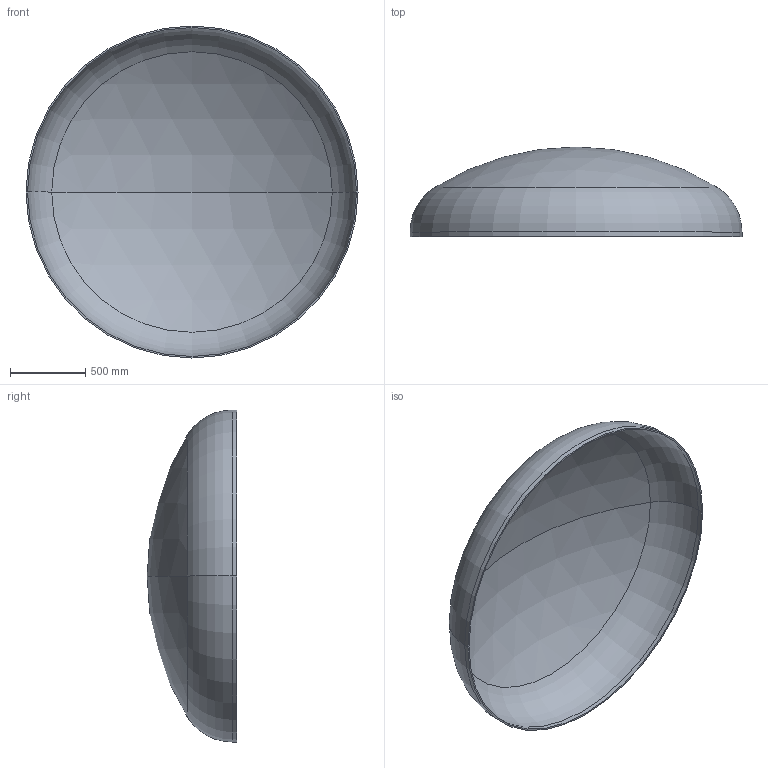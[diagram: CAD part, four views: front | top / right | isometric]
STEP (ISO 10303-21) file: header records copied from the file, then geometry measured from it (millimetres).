
FILE_DESCRIPTION (( 'STEP AP203' ), '1' );
FILE_NAME ('DIN 28013 Korbbogenform_-_Boden DIN 28013 - 2200 x 30 - I - s=10.step', '2016-07-01T14:18:24', ( '' ), ( '' ), 'SwSTEP 2.0', 'SolidWorks 2013', '' );
FILE_SCHEMA (( 'CONFIG_CONTROL_DESIGN' ));
Length unit declared in the file: millimetre
Products named in the file (1): DIN 28013 Korbbogenform_-_Boden DIN 28013 - 2200 x 30 - I - s=10
Bounding box: 2200 x 594.22 x 2200 mm (x, y, z)
Volume: 54434739 mm3; surface area: 10955953.8 mm2
Topology: 1 solids, 1 shells, 13 faces, 24 edges, 14 vertices
Faces by surface type: torus 4, cylinder 4, sphere 4, plane 1
Entity records: 407 total; most frequent: DIRECTION 72, CARTESIAN_POINT 52, ORIENTED_EDGE 48, AXIS2_PLACEMENT_3D 34, EDGE_CURVE 24, CIRCLE 20, EDGE_LOOP 14, VERTEX_POINT 14
